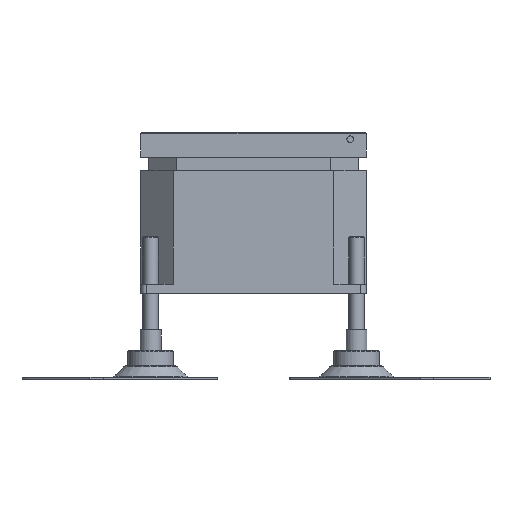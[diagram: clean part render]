
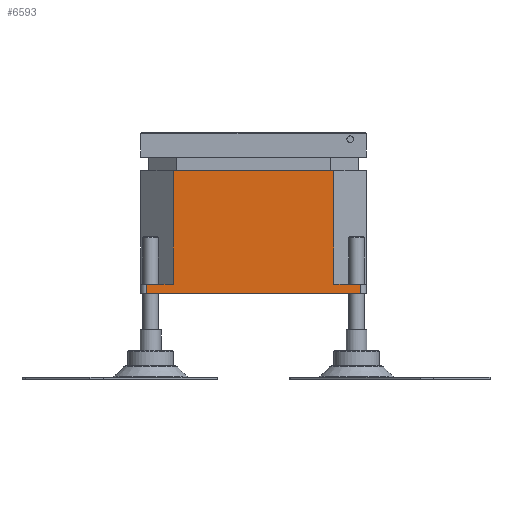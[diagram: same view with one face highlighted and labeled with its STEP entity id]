
A CAD part, left-side view. The second image highlights one B-rep face of the part: STEP entity #6593.
In plain terms, the highlighted planar face has unit normal (-1, 0, 0).
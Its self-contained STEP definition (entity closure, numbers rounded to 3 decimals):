
#734=FACE_OUTER_BOUND('',#1130,.T.);
#1130=EDGE_LOOP('',(#4785,#4786,#4787,#4788,#4789,#4790,#4791,#4792));
#1525=LINE('',#9835,#2159);
#1534=LINE('',#9890,#2168);
#1536=LINE('',#9896,#2170);
#1543=LINE('',#9911,#2177);
#1602=LINE('',#10076,#2236);
#1611=LINE('',#10093,#2245);
#1612=LINE('',#10095,#2246);
#1613=LINE('',#10099,#2247);
#2159=VECTOR('',#7899,10.);
#2168=VECTOR('',#7950,10.);
#2170=VECTOR('',#7956,10.);
#2177=VECTOR('',#7967,10.);
#2236=VECTOR('',#8138,10.);
#2245=VECTOR('',#8159,10.);
#2246=VECTOR('',#8162,10.);
#2247=VECTOR('',#8169,10.);
#2796=VERTEX_POINT('',#9832);
#2797=VERTEX_POINT('',#9834);
#2822=VERTEX_POINT('',#9888);
#2823=VERTEX_POINT('',#9892);
#2830=VERTEX_POINT('',#9910);
#2879=VERTEX_POINT('',#10073);
#2880=VERTEX_POINT('',#10075);
#2882=VERTEX_POINT('',#10091);
#3463=EDGE_CURVE('',#2796,#2797,#1525,.T.);
#3491=EDGE_CURVE('',#2822,#2796,#1534,.T.);
#3494=EDGE_CURVE('',#2797,#2823,#1536,.T.);
#3501=EDGE_CURVE('',#2830,#2823,#1543,.T.);
#3582=EDGE_CURVE('',#2880,#2879,#1602,.T.);
#3591=EDGE_CURVE('',#2822,#2882,#1611,.T.);
#3592=EDGE_CURVE('',#2882,#2880,#1612,.T.);
#3593=EDGE_CURVE('',#2879,#2830,#1613,.T.);
#4785=ORIENTED_EDGE('',*,*,#3491,.F.);
#4786=ORIENTED_EDGE('',*,*,#3591,.T.);
#4787=ORIENTED_EDGE('',*,*,#3592,.T.);
#4788=ORIENTED_EDGE('',*,*,#3582,.T.);
#4789=ORIENTED_EDGE('',*,*,#3593,.T.);
#4790=ORIENTED_EDGE('',*,*,#3501,.T.);
#4791=ORIENTED_EDGE('',*,*,#3494,.F.);
#4792=ORIENTED_EDGE('',*,*,#3463,.F.);
#6326=PLANE('',#7217);
#6593=ADVANCED_FACE('',(#734),#6326,.T.);
#7217=AXIS2_PLACEMENT_3D('',#10100,#8170,#8171);
#7899=DIRECTION('',(0.,1.,0.));
#7950=DIRECTION('',(0.,0.,-1.));
#7956=DIRECTION('',(0.,0.,1.));
#7967=DIRECTION('',(0.,1.,0.));
#8138=DIRECTION('',(0.,1.,0.));
#8159=DIRECTION('',(0.,1.,0.));
#8162=DIRECTION('',(0.,0.,1.));
#8169=DIRECTION('',(0.,0.,-1.));
#8170=DIRECTION('center_axis',(-1.,0.,0.));
#8171=DIRECTION('ref_axis',(0.,-1.,0.));
#9832=CARTESIAN_POINT('',(-59.5,-56.5,0.));
#9834=CARTESIAN_POINT('',(-59.5,56.5,0.));
#9835=CARTESIAN_POINT('',(-59.5,-59.5,0.));
#9888=CARTESIAN_POINT('',(-59.5,-56.5,5.));
#9890=CARTESIAN_POINT('',(-59.5,-56.5,0.));
#9892=CARTESIAN_POINT('',(-59.5,56.5,5.));
#9896=CARTESIAN_POINT('',(-59.5,56.5,0.));
#9910=CARTESIAN_POINT('',(-59.5,42.323,5.));
#9911=CARTESIAN_POINT('',(-59.5,29.75,5.));
#10073=CARTESIAN_POINT('',(-59.5,42.323,65.));
#10075=CARTESIAN_POINT('',(-59.5,-42.323,65.));
#10076=CARTESIAN_POINT('',(-59.5,29.75,65.));
#10091=CARTESIAN_POINT('',(-59.5,-42.323,5.));
#10093=CARTESIAN_POINT('',(-59.5,29.75,5.));
#10095=CARTESIAN_POINT('',(-59.5,-42.323,0.));
#10099=CARTESIAN_POINT('',(-59.5,42.323,0.));
#10100=CARTESIAN_POINT('Origin',(-59.5,59.5,0.));
